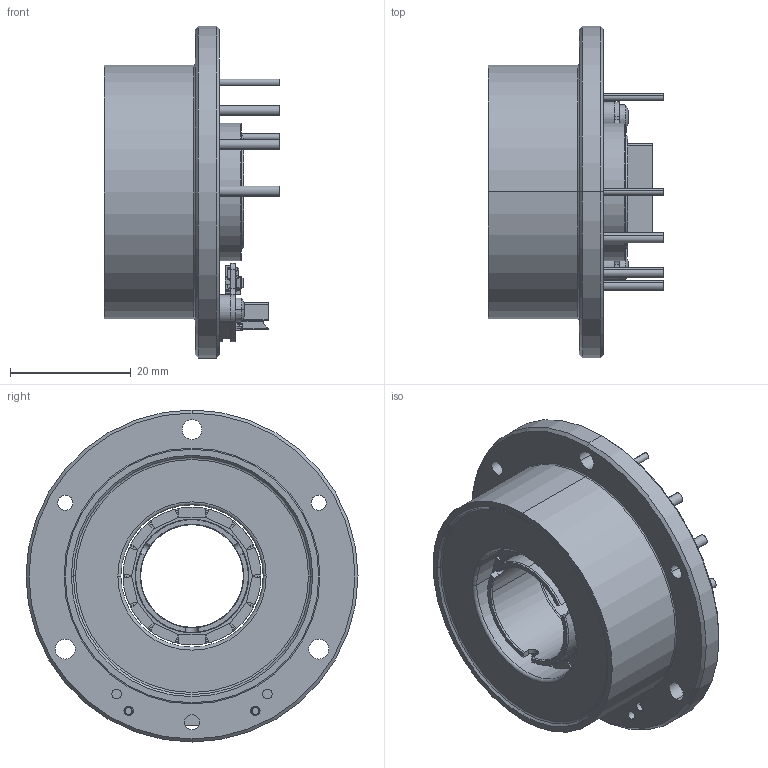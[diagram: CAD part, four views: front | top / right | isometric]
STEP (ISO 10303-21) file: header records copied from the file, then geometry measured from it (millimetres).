
FILE_DESCRIPTION((''),'2;1');
FILE_NAME('9757098_ASM','2024-01-19T10:36:10',('MMAGMUAG'),(''),'CREO PARAMETRIC BY PTC INC, 2022484','CREO PARAMETRIC BY PTC INC, 2022484','');
FILE_SCHEMA(('CONFIG_CONTROL_DESIGN','SHAPE_APPEARANCE_LAYERS_GROUPS'));
Products named in the file (19): 9747956; 9434376_ASM; 9749036_ASM; 9751041_ASM; 9753198; 9753188_ASM; 9788876; 9740104; 9797498; 9844999_ASM; 9783300; 6428468; 6421355; 6732790; 6737674; 6421360_ASM; 9193063; 10564710_AF0; 9757098_ASM
Assembly tree (31 placements, depth 5):
  9757098_ASM
    9753188_ASM
      9751041_ASM
        9747956
        9749036_ASM
          9434376_ASM
      9753198
    9844999_ASM
      9788876
      9740104  x7
      9797498  x7
    9783300
    6428468
    6421360_ASM
      6421355
      6732790
      6737674
    9193063  x2
    10564710_AF0
Bounding box: 29 x 55 x 55 mm (x, y, z)
Volume: 24424.2 mm3; surface area: 21106.5 mm2
Topology: 66 solids, 66 shells, 3221 faces, 9104 edges, 6021 vertices
Faces by surface type: plane 2062, cylinder 810, sphere 229, cone 59, torus 48, bspline 13
Entity records: 151436 total; most frequent: CARTESIAN_POINT 30282, ORIENTED_EDGE 17354, DIRECTION 15102, PRESENTATION_STYLE_ASSIGNMENT 10868, STYLED_ITEM 8750, CURVE_STYLE 8677, EDGE_CURVE 8677, VECTOR 5896
